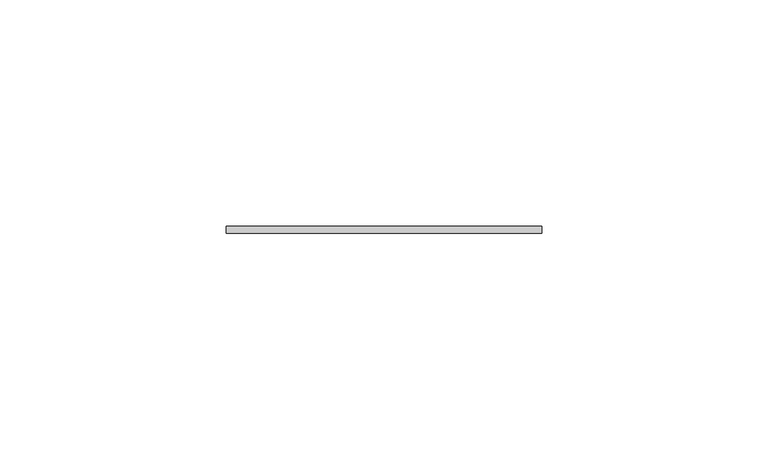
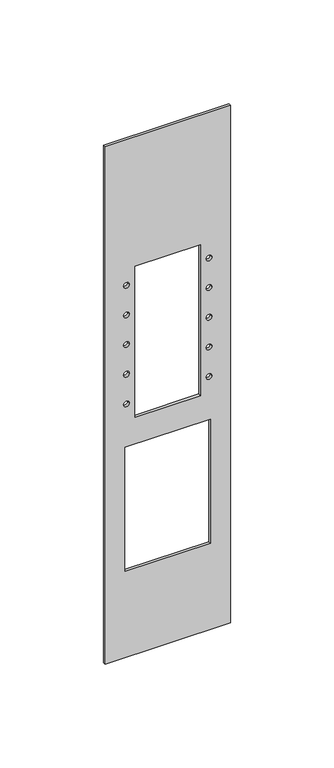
"""IFC4 building model written with IfcOpenShell, lengths in millimetres: proxy geometry, Accessory-Wiremold-Data_And_AV_Add_on_Cover_30_Series_Poles : 30TC-MAAP."""

from ifc_helpers import new_model, si_unit, point, frame, frame_2d, origin, place, context, project, spatial, polyline, circle_curve, trimmed, segment, composite_curve, outline, extrude, source, transform, mapped, element, save


def communication_devices_684aa8cd(model_context):
    return source(origin(), model_context, "Body", "SweptSolid", [
        extrude(outline(polyline([(304.8, 34.925), (304.8, -34.925), (0.0, -34.925), (0.0, 34.925), (304.8, 34.925)]), holes=[polyline([(123.825, 23.8125), (50.8, 23.8125), (50.8, -23.8125), (123.825, -23.8125), (123.825, 23.8125)]), polyline([(228.6, 18.25625), (139.7, 18.25625), (139.7, -18.25625), (228.6, -18.25625), (228.6, 18.25625)]), composite_curve([segment(trimmed(circle_curve(frame_2d((184.15, -23.01875)), 1.5875), [point((184.15, -24.60625))], [point((184.15, -21.43125))], True, "CARTESIAN"), True, "CONTINUOUS"), segment(trimmed(circle_curve(frame_2d((184.15, -23.01875)), 1.5875), [point((184.15, -21.43125))], [point((184.15, -24.60625))], True, "CARTESIAN"), True, "CONTINUOUS")], self_intersect=False), composite_curve([segment(trimmed(circle_curve(frame_2d((166.6875, -23.01875)), 1.5875), [point((166.6875, -24.60625))], [point((166.6875, -21.43125))], True, "CARTESIAN"), True, "CONTINUOUS"), segment(trimmed(circle_curve(frame_2d((166.6875, -23.01875)), 1.5875), [point((166.6875, -21.43125))], [point((166.6875, -24.60625))], True, "CARTESIAN"), True, "CONTINUOUS")], self_intersect=False), composite_curve([segment(trimmed(circle_curve(frame_2d((149.225, -23.01875)), 1.5875), [point((149.225, -24.60625))], [point((149.225, -21.43125))], True, "CARTESIAN"), True, "CONTINUOUS"), segment(trimmed(circle_curve(frame_2d((149.225, -23.01875)), 1.5875), [point((149.225, -21.43125))], [point((149.225, -24.60625))], True, "CARTESIAN"), True, "CONTINUOUS")], self_intersect=False), composite_curve([segment(trimmed(circle_curve(frame_2d((201.6125, -23.01875)), 1.5875), [point((201.6125, -24.60625))], [point((201.6125, -21.43125))], True, "CARTESIAN"), True, "CONTINUOUS"), segment(trimmed(circle_curve(frame_2d((201.6125, -23.01875)), 1.5875), [point((201.6125, -21.43125))], [point((201.6125, -24.60625))], True, "CARTESIAN"), True, "CONTINUOUS")], self_intersect=False), composite_curve([segment(trimmed(circle_curve(frame_2d((219.075, -23.01875)), 1.5875), [point((219.075, -24.60625))], [point((219.075, -21.43125))], True, "CARTESIAN"), True, "CONTINUOUS"), segment(trimmed(circle_curve(frame_2d((219.075, -23.01875)), 1.5875), [point((219.075, -21.43125))], [point((219.075, -24.60625))], True, "CARTESIAN"), True, "CONTINUOUS")], self_intersect=False), composite_curve([segment(trimmed(circle_curve(frame_2d((219.075, 23.01875)), 1.5875), [point((219.075, 21.43125))], [point((219.075, 24.60625))], True, "CARTESIAN"), True, "CONTINUOUS"), segment(trimmed(circle_curve(frame_2d((219.075, 23.01875)), 1.5875), [point((219.075, 24.60625))], [point((219.075, 21.43125))], True, "CARTESIAN"), True, "CONTINUOUS")], self_intersect=False), composite_curve([segment(trimmed(circle_curve(frame_2d((201.6125, 23.01875)), 1.5875), [point((201.6125, 21.43125))], [point((201.6125, 24.60625))], True, "CARTESIAN"), True, "CONTINUOUS"), segment(trimmed(circle_curve(frame_2d((201.6125, 23.01875)), 1.5875), [point((201.6125, 24.60625))], [point((201.6125, 21.43125))], True, "CARTESIAN"), True, "CONTINUOUS")], self_intersect=False), composite_curve([segment(trimmed(circle_curve(frame_2d((184.15, 23.01875)), 1.5875), [point((184.15, 21.43125))], [point((184.15, 24.60625))], True, "CARTESIAN"), True, "CONTINUOUS"), segment(trimmed(circle_curve(frame_2d((184.15, 23.01875)), 1.5875), [point((184.15, 24.60625))], [point((184.15, 21.43125))], True, "CARTESIAN"), True, "CONTINUOUS")], self_intersect=False), composite_curve([segment(trimmed(circle_curve(frame_2d((166.6875, 23.01875)), 1.5875), [point((166.6875, 21.43125))], [point((166.6875, 24.60625))], True, "CARTESIAN"), True, "CONTINUOUS"), segment(trimmed(circle_curve(frame_2d((166.6875, 23.01875)), 1.5875), [point((166.6875, 24.60625))], [point((166.6875, 21.43125))], True, "CARTESIAN"), True, "CONTINUOUS")], self_intersect=False), composite_curve([segment(trimmed(circle_curve(frame_2d((149.225, 23.01875)), 1.5875), [point((149.225, 21.43125))], [point((149.225, 24.60625))], True, "CARTESIAN"), True, "CONTINUOUS"), segment(trimmed(circle_curve(frame_2d((149.225, 23.01875)), 1.5875), [point((149.225, 24.60625))], [point((149.225, 21.43125))], True, "CARTESIAN"), True, "CONTINUOUS")], self_intersect=False)]), frame((0.0, 0.0, 0.0), z_axis=(0.0, 1.0, 0.0), x_axis=(0.0, 0.0, 1.0)), (0.0, 0.0, 1.0), 1.5875),
    ])


if __name__ == "__main__":
    model = new_model("IFC4")
    model_context = context("Model", 3, world=origin())
    ifc_project = project(units=[si_unit("LENGTHUNIT", "METRE", prefix="MILLI")], contexts=[model_context])
    site = spatial("IfcSite", under=ifc_project)
    building = spatial("IfcBuilding", under=site)
    placement = place(None, origin())
    communication_devices_shape = communication_devices_684aa8cd(model_context)
    element("IfcBuildingElementProxy", 1, Name="Accessory-Wiremold-Data_And_AV_Add_on_Cover_30_Series_Poles : 30TC-MAAP", ObjectType="Accessory-Wiremold-Data_And_AV_Add_on_Cover_30_Series_Poles : 30TC-MAAP", at=placement, inside=building, context=model_context, shape_type="MappedRepresentation", body=[
        mapped(communication_devices_shape, transform((0.0, 0.0, 0.0), x_axis=(1.0, 0.0, 0.0), y_axis=(0.0, 1.0, 0.0), z_axis=(0.0, 0.0, 1.0))),
    ])
    save(model, "model.ifc")
